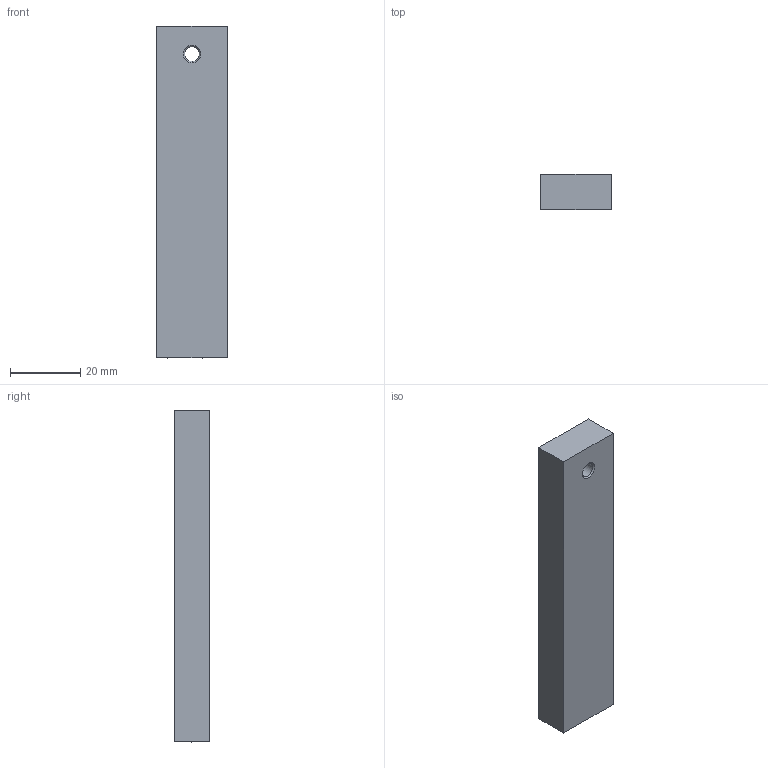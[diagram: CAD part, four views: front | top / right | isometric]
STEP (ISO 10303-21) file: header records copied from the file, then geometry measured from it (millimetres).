
FILE_DESCRIPTION(/* description */ (''),/* implementation_level */ '2;1');
FILE_NAME(/* name */ '砂轮阴极连接架.stp',/* time_stamp */ '2026-09-15T20:05:10+08:00',/* author */ (''),/* organization */ (''),/* preprocessor_version */ 'ST-DEVELOPER v20',/* originating_system */ 'SIEMENS PLM Software NX2312.1700',/* authorisation */ '');
FILE_SCHEMA (('AUTOMOTIVE_DESIGN { 1 0 10303 214 3 1 1 1 }'));
Length unit declared in the file: millimetre
Products named in the file (1): 阴极支撑架二
Bounding box: 20 x 10 x 94.5 mm (x, y, z)
Volume: 18564 mm3; surface area: 6395.5 mm2
Topology: 1 solids, 1 shells, 15 faces, 39 edges, 26 vertices
Faces by surface type: plane 6, cone 6, cylinder 3
Full cylindrical faces by diameter (mm): 3.3 x2, 4.2 x1
Entity records: 382 total; most frequent: DIRECTION 64, CARTESIAN_POINT 58, ORIENTED_EDGE 44, EDGE_LOOP 26, AXIS2_PLACEMENT_3D 26, FACE_BOUND 25, EDGE_CURVE 22, VERTEX_POINT 20
